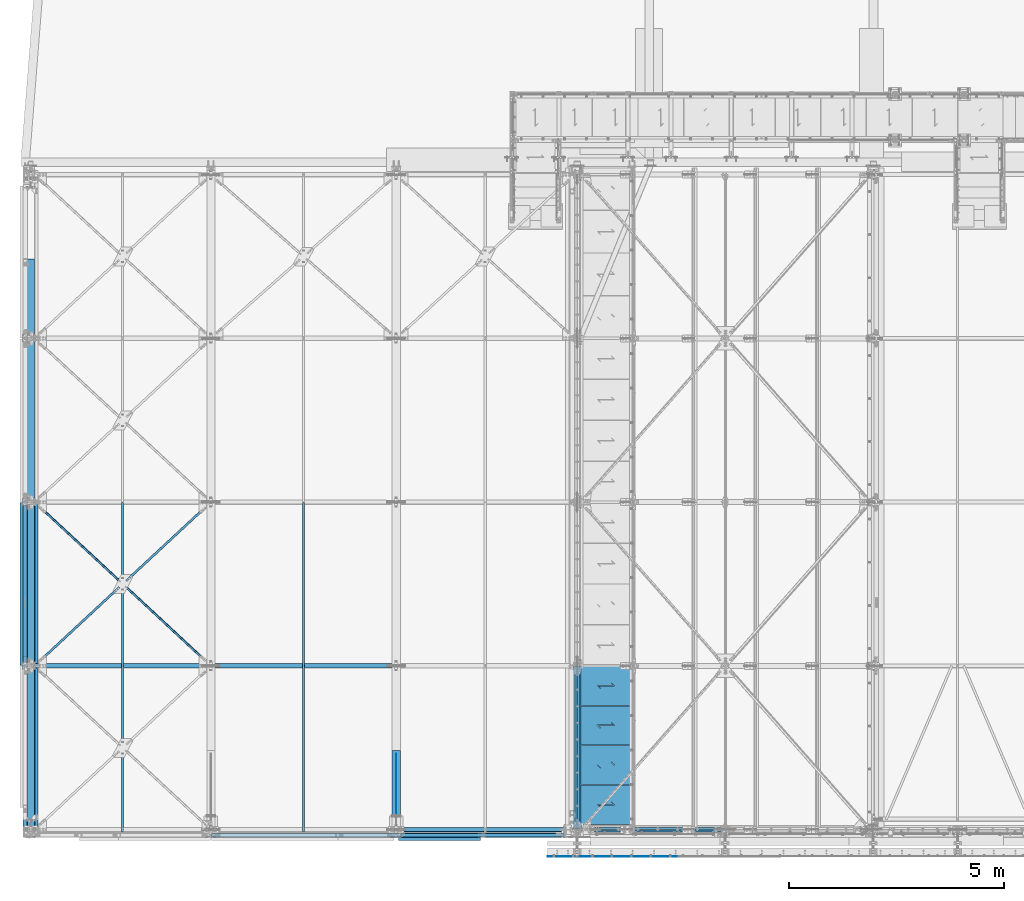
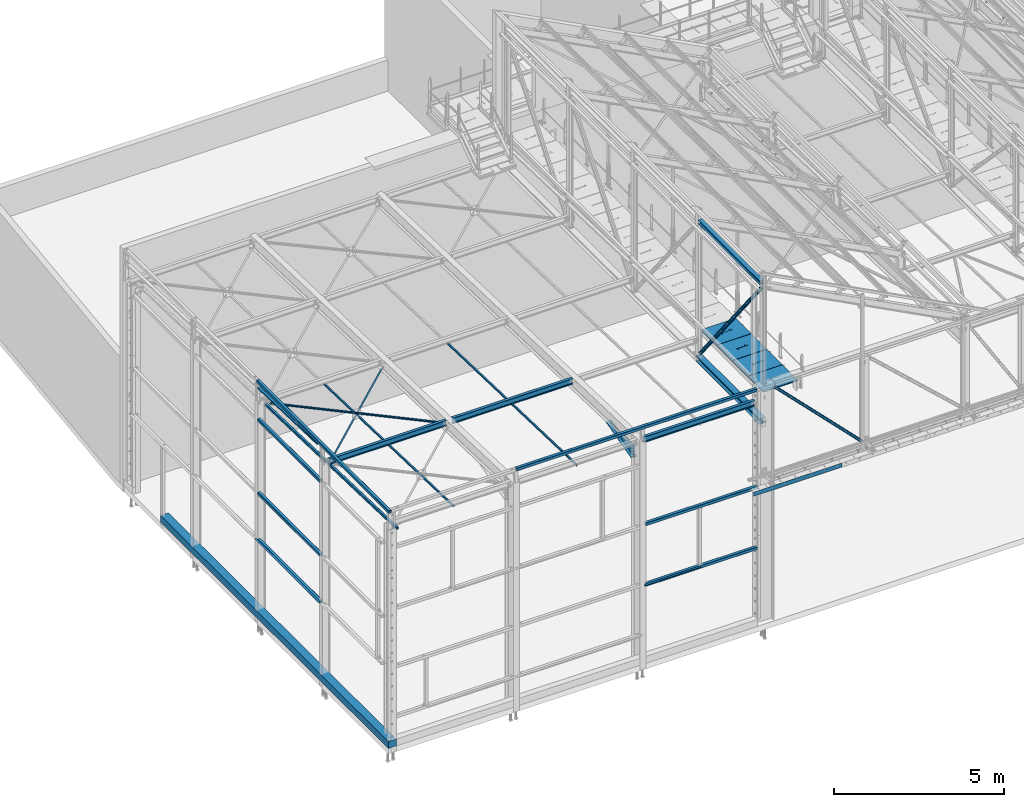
# One storey, part 42 of 362: 29 beams, 4 members, 30 elements without a shape of their own.
"""IFC2X3 building model written with IfcOpenShell, lengths in millimetres."""

from ifc_helpers import new_model, si_unit, frame, origin_with_axes, origin_2d_with_axis, place, context, subcontext, project, spatial, polyline, rectangle, hollow_rectangle, i_section, l_section, u_section, outline, extrude, boolean, clip, halfspace, material, type_object, element, aggregate, save


model = new_model("IFC2X3")

# Units and contexts
model_context = context("Model", 3, precision=1e-05, world=origin_with_axes())
body_context = subcontext(model_context, "Body", "Model", "MODEL_VIEW")
ifc_project = project(units=[si_unit("LENGTHUNIT", "METRE", prefix="MILLI"), si_unit("AREAUNIT", "SQUARE_METRE"), si_unit("VOLUMEUNIT", "CUBIC_METRE"), si_unit("MASSUNIT", "GRAM", prefix="KILO"), si_unit("TIMEUNIT", "SECOND"), si_unit("PLANEANGLEUNIT", "RADIAN"), si_unit("SOLIDANGLEUNIT", "STERADIAN"), si_unit("THERMODYNAMICTEMPERATUREUNIT", "DEGREE_CELSIUS"), si_unit("LUMINOUSINTENSITYUNIT", "LUMEN")], contexts=[model_context])

# Site, building, storey
site_placement = place(None, origin_with_axes())
site = spatial("IfcSite", under=ifc_project, at=site_placement, Name="Undefined", CompositionType="ELEMENT")
building_placement = place(site_placement, origin_with_axes())
building = spatial("IfcBuilding", under=site, at=building_placement, Name="Undefined", CompositionType="ELEMENT")
storey_placement = place(building_placement, origin_with_axes())
storey = spatial("IfcBuildingStorey", under=building, at=storey_placement, Name="Undefined", CompositionType="ELEMENT", Elevation=0.0)

# Assembly, beam
assembly_1_placement = place(storey_placement, origin_with_axes())
assembly_1 = element("IfcElementAssembly", 1, at=assembly_1_placement, inside=storey, AssemblyPlace="NOTDEFINED", PredefinedType="NOTDEFINED")
ifc_material_1 = material(Name="Undefined/S235-E24")
beam_type_1 = type_object("IfcBeamType", Name="L50*5", PredefinedType="NOTDEFINED")
beam_1_placement = place(assembly_1_placement, frame((6327.00001266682, -53.9015129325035, 7826.58977123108), z_axis=(1.0, 0.0, 0.0), x_axis=(3.14103090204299e-11, 0.999506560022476, -0.0314107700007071)))
beam_1 = element("IfcBeam", 2, at=beam_1_placement, type_object=beam_type_1, material=ifc_material_1, Name="LIERNE", ObjectType="L50*5", context=body_context, shape_type="SweptSolid", body=[
    extrude(l_section(Depth=50.0, Width=50.0, Thickness=5.0, FilletRadius=7.0, EdgeRadius=3.5, at=origin_2d_with_axis()), frame((7648.75199419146, 0.0, 0.0), z_axis=(-1.0, 0.0, 0.0), x_axis=(0.0, -1.0, 0.0)), (0.0, 0.0, 1.0), 7648.75),
])
aggregate(assembly_1, [beam_1])

assembly_2_placement = place(storey_placement, origin_with_axes())
assembly_2 = element("IfcElementAssembly", 3, at=assembly_2_placement, inside=storey, AssemblyPlace="NOTDEFINED", PredefinedType="NOTDEFINED")
beam_2_placement = place(assembly_2_placement, frame((2132.95531990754, 5698.0833135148, 7639.81379578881), z_axis=(0.68083649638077, -0.732074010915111, 0.0230066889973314), x_axis=(0.732435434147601, 0.680500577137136, -0.0213845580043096)))
beam_2 = element("IfcBeam", 4, at=beam_2_placement, type_object=beam_type_1, material=ifc_material_1, Name="STABILITE CVT", ObjectType="L50*5", context=body_context, shape_type="Clipping", body=[
    clip(clip(extrude(l_section(Depth=50.0, Width=50.0, Thickness=5.0, FilletRadius=7.0, EdgeRadius=3.5, at=origin_2d_with_axis()), frame((2792.05794235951, 1.81898940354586e-12, 3.02412813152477e-13), z_axis=(-1.0, 0.0, 0.0), x_axis=(0.0, -1.0, 0.0)), (0.0, 0.0, 1.0), 2736.72), halfspace(frame((2629.6011678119, 24.9927799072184, 24.996908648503), z_axis=(0.999999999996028, -1.34644375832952e-06, -2.47632953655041e-06), x_axis=(-2.47633029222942e-06, -5.61239297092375e-07, -0.999999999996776)), False)), halfspace(frame((106.894615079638, 31.0068168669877, 25.0000008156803), z_axis=(0.999999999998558, -1.69800000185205e-06, 0.0), x_axis=(1.69800000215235e-06, 0.999999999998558, 0.0)), True)),
])
aggregate(assembly_2, [beam_2])

assembly_3_placement = place(storey_placement, origin_with_axes())
assembly_3 = element("IfcElementAssembly", 5, at=assembly_3_placement, inside=storey, AssemblyPlace="NOTDEFINED", PredefinedType="NOTDEFINED")
beam_3_placement = place(assembly_3_placement, frame((2132.00001266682, -53.9015129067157, 7826.58977123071), z_axis=(1.0, 0.0, 0.0), x_axis=(3.14103090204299e-11, 0.999506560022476, -0.0314107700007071)))
beam_3 = element("IfcBeam", 6, at=beam_3_placement, type_object=beam_type_1, material=ifc_material_1, Name="LIERNE", ObjectType="L50*5", context=body_context, shape_type="SweptSolid", body=[
    extrude(l_section(Depth=50.0, Width=50.0, Thickness=5.0, FilletRadius=7.0, EdgeRadius=3.5, at=origin_2d_with_axis()), frame((7648.75199419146, 0.0, 0.0), z_axis=(-1.0, 0.0, 0.0), x_axis=(0.0, -1.0, 0.0)), (0.0, 0.0, 1.0), 7648.75),
])
aggregate(assembly_3, [beam_3])

assembly_4_placement = place(storey_placement, origin_with_axes())
assembly_4 = element("IfcElementAssembly", 7, at=assembly_4_placement, inside=storey, AssemblyPlace="NOTDEFINED", PredefinedType="NOTDEFINED")
beam_4_placement = place(assembly_4_placement, frame((4182.04253757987, 3799.8493937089, 7755.49482368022), z_axis=(-0.680836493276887, -0.73207405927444, 0.023005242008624), x_axis=(-0.732435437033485, 0.680500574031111, -0.0213845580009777)))
beam_4 = element("IfcBeam", 8, at=beam_4_placement, type_object=beam_type_1, material=ifc_material_1, Name="STABILITE CVT", ObjectType="L50*5", context=body_context, shape_type="Clipping", body=[
    clip(clip(extrude(l_section(Depth=50.0, Width=50.0, Thickness=5.0, FilletRadius=7.0, EdgeRadius=3.5, at=origin_2d_with_axis()), frame((5584.10997520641, -9.09494701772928e-13, 2.93028321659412e-13), z_axis=(-1.0, 0.0, 0.0), x_axis=(0.0, -1.0, 0.0)), (0.0, 0.0, 1.0), 5584.11), halfspace(frame((5421.64660010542, -25.0000571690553, -24.9999999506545), z_axis=(0.999999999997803, 2.09200000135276e-06, 1.31999999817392e-07), x_axis=(0.0, 0.0, 1.0)), False)), halfspace(frame((162.459932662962, 25.000057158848, -24.9999999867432), z_axis=(-0.999999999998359, -1.34631977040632e-06, 1.21235578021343e-06), x_axis=(1.21235578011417e-06, 7.45476427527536e-11, 0.999999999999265)), False)),
])
aggregate(assembly_4, [beam_4])

assembly_5_placement = place(storey_placement, origin_with_axes())
assembly_5 = element("IfcElementAssembly", 9, at=assembly_5_placement, inside=storey, AssemblyPlace="NOTDEFINED", PredefinedType="NOTDEFINED")
beam_5_placement = place(assembly_5_placement, frame((87.9574898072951, 3798.09030455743, 7699.52059346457), z_axis=(0.68083649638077, -0.732074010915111, 0.0230066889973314), x_axis=(0.732435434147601, 0.680500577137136, -0.0213845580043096)))
beam_5 = element("IfcBeam", 10, at=beam_5_placement, type_object=beam_type_1, material=ifc_material_1, Name="STABILITE CVT", ObjectType="L50*5", context=body_context, shape_type="Clipping", body=[
    clip(clip(extrude(l_section(Depth=50.0, Width=50.0, Thickness=5.0, FilletRadius=7.0, EdgeRadius=3.5, at=origin_2d_with_axis()), frame((2736.71023834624, 8.99999830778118e-13, 4.62758648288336e-13), z_axis=(-1.0, 0.0, 0.0), x_axis=(0.0, -1.0, 0.0)), (0.0, 0.0, 1.0), 2736.71), halfspace(frame((162.463400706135, -25.0000933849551, 24.9999638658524), z_axis=(-0.999999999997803, 2.09199999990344e-06, -1.31999999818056e-07), x_axis=(-6.7626569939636e-10, 1.60677807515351e-06, -0.999999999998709)), False)), halfspace(frame((2685.15740098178, 31.0071053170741, 25.0000000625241), z_axis=(0.999999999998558, -1.69800000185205e-06, 0.0), x_axis=(1.69800000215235e-06, 0.999999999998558, 0.0)), False)),
])
aggregate(assembly_5, [beam_5])

assembly_6_placement = place(storey_placement, origin_with_axes())
assembly_6 = element("IfcElementAssembly", 11, at=assembly_6_placement, inside=storey, Name="SUPPORT", AssemblyPlace="NOTDEFINED", PredefinedType="NOTDEFINED")
beam_type_2 = type_object("IfcBeamType", Name="PL150*4", PredefinedType="NOTDEFINED")
beam_6_placement = place(assembly_6_placement, frame((11990.0, -622.0, 5154.99824538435), z_axis=(0.0, 0.0, 1.0), x_axis=(1.0, 0.0, 0.0)))
beam_6 = element("IfcBeam", 12, at=beam_6_placement, type_object=beam_type_2, material=ifc_material_1, Name="SUPPORT", ObjectType="PL150*4", context=body_context, shape_type="SweptSolid", body=[
    extrude(rectangle(XDim=4.0, YDim=150.0, at=origin_2d_with_axis()), frame((2999.99999402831, 0.0, 0.0), z_axis=(-1.0, 0.0, 0.0), x_axis=(0.0, -1.0, 0.0)), (0.0, 0.0, 1.0), 3000.0),
])
aggregate(assembly_6, [beam_6])

assembly_7_placement = place(storey_placement, origin_with_axes())
assembly_7 = element("IfcElementAssembly", 13, at=assembly_7_placement, inside=storey, Name="LISSE", AssemblyPlace="NOTDEFINED", PredefinedType="NOTDEFINED")
beam_type_3 = type_object("IfcBeamType", Name="UPF-100*50*4", PredefinedType="NOTDEFINED")
beam_7_placement = place(assembly_7_placement, frame((-129.999999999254, 3799.99999997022, 8410.85601504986), z_axis=(1.0, 0.0, 0.0), x_axis=(0.0, 0.99950644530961, -0.0314144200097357)))
beam_7 = element("IfcBeam", 14, at=beam_7_placement, type_object=beam_type_3, material=ifc_material_1, Name="LISSE CONTREBARDAGE", ObjectType="UPF-100*50*4", context=body_context, shape_type="Clipping", body=[
    clip(clip(extrude(u_section(Depth=100.0, FlangeWidth=50.0, WebThickness=4.0, FlangeThickness=4.0, at=origin_2d_with_axis()), frame((3738.43154409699, 2.59405798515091e-14, 0.0), z_axis=(-1.0, 0.0, 0.0), x_axis=(0.0, -1.0, 0.0)), (0.0, 0.0, 1.0), 3536.42), halfspace(frame((3735.73414698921, 35.3226290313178, 49.9999999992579), z_axis=(-0.999506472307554, -0.0314135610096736, 0.0), x_axis=(0.0, 0.0, 1.0)), True)), halfspace(frame((202.484021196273, 35.5224298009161, 49.9999999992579), z_axis=(0.999506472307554, 0.0314135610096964, 0.0), x_axis=(0.0, 0.0, 1.0)), True)),
])
aggregate(assembly_7, [beam_7])

assembly_8_placement = place(storey_placement, origin_with_axes())
assembly_8 = element("IfcElementAssembly", 15, at=assembly_8_placement, inside=storey, Name="LISSE", AssemblyPlace="NOTDEFINED", PredefinedType="NOTDEFINED")
beam_type_4 = type_object("IfcBeamType", Name="TUBE-C-100*100*4", PredefinedType="NOTDEFINED")
beam_8_placement = place(assembly_8_placement, frame((4185.0, -130.0, 8500.0), z_axis=(0.0, 0.0, 1.0), x_axis=(1.0, 0.0, 0.0)))
beam_8 = element("IfcBeam", 16, at=beam_8_placement, type_object=beam_type_4, material=ifc_material_1, Name="LISSE ACROTERE", ObjectType="TUBE-C-100*100*4", context=body_context, shape_type="SweptSolid", body=[
    extrude(hollow_rectangle(XDim=100.0, YDim=100.0, WallThickness=4.0, InnerFilletRadius=4.0, OuterFilletRadius=8.0, at=origin_2d_with_axis()), frame((8185.0, 0.0, 0.0), z_axis=(-1.0, 0.0, 0.0), x_axis=(0.0, -1.0, 0.0)), (0.0, 0.0, 1.0), 8185.0),
])
aggregate(assembly_8, [beam_8])

assembly_9_placement = place(storey_placement, origin_with_axes())
assembly_9 = element("IfcElementAssembly", 17, at=assembly_9_placement, inside=storey, Name="LISSE", AssemblyPlace="NOTDEFINED", PredefinedType="NOTDEFINED")
beam_9_placement = place(assembly_9_placement, frame((-129.999999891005, 7595.00000002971, 8500.00000001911), z_axis=(0.0, 0.0, 1.0), x_axis=(0.0, -1.0, 0.0)))
beam_9 = element("IfcBeam", 18, at=beam_9_placement, type_object=beam_type_4, material=ifc_material_1, Name="LISSE ACROTERE", ObjectType="TUBE-C-100*100*4", context=body_context, shape_type="SweptSolid", body=[
    extrude(hollow_rectangle(XDim=100.0, YDim=100.0, WallThickness=4.0, InnerFilletRadius=4.0, OuterFilletRadius=8.0, at=origin_2d_with_axis()), frame((7775.00000003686, 0.0, 0.0), z_axis=(-1.0, 0.0, 0.0), x_axis=(0.0, -1.0, 0.0)), (0.0, 0.0, 1.0), 7775.0),
])
aggregate(assembly_9, [beam_9])

assembly_10_placement = place(storey_placement, origin_with_axes())
assembly_10 = element("IfcElementAssembly", 19, at=assembly_10_placement, inside=storey, Name="LISSE", AssemblyPlace="NOTDEFINED", PredefinedType="NOTDEFINED")
beam_10_placement = place(assembly_10_placement, frame((-129.999999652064, 7524.99999131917, 4500.00000022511), z_axis=(0.0, 0.0, 1.0), x_axis=(0.0, -1.0, 0.0)))
beam_10 = element("IfcBeam", 20, at=beam_10_placement, type_object=beam_type_4, material=ifc_material_1, Name="LISSE CHASSIS", ObjectType="TUBE-C-100*100*4", context=body_context, shape_type="SweptSolid", body=[
    extrude(hollow_rectangle(XDim=100.0, YDim=100.0, WallThickness=4.0, InnerFilletRadius=4.0, OuterFilletRadius=8.0, at=origin_2d_with_axis()), frame((3650.0, 0.0, 0.0), z_axis=(-1.0, 0.0, 0.0), x_axis=(0.0, -1.0, 0.0)), (0.0, 0.0, 1.0), 3650.0),
])
aggregate(assembly_10, [beam_10])

assembly_11_placement = place(storey_placement, origin_with_axes())
assembly_11 = element("IfcElementAssembly", 21, at=assembly_11_placement, inside=storey, Name="LISSE", AssemblyPlace="NOTDEFINED", PredefinedType="NOTDEFINED")
beam_11_placement = place(assembly_11_placement, frame((8585.00000000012, -130.000008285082, 4989.99999999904), z_axis=(0.0, 0.0, 1.0), x_axis=(1.0, 0.0, 0.0)))
beam_11 = element("IfcBeam", 22, at=beam_11_placement, type_object=beam_type_4, material=ifc_material_1, Name="LISSE CHASSIS", ObjectType="TUBE-C-100*100*4", context=body_context, shape_type="SweptSolid", body=[
    extrude(hollow_rectangle(XDim=100.0, YDim=100.0, WallThickness=4.0, InnerFilletRadius=4.0, OuterFilletRadius=8.0, at=origin_2d_with_axis()), frame((3790.00000005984, 0.0, 0.0), z_axis=(-1.0, 0.0, 0.0), x_axis=(0.0, -1.0, 0.0)), (0.0, 0.0, 1.0), 3790.0),
])
aggregate(assembly_11, [beam_11])

assembly_12_placement = place(storey_placement, origin_with_axes())
assembly_12 = element("IfcElementAssembly", 23, at=assembly_12_placement, inside=storey, Name="LISSE", AssemblyPlace="NOTDEFINED", PredefinedType="NOTDEFINED")
beam_12_placement = place(assembly_12_placement, frame((8585.00000011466, -129.999999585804, 2810.0), z_axis=(0.0, 0.0, -1.0), x_axis=(1.0, 0.0, 0.0)))
beam_12 = element("IfcBeam", 24, at=beam_12_placement, type_object=beam_type_4, material=ifc_material_1, Name="LISSE CHASSIS", ObjectType="TUBE-C-100*100*4", context=body_context, shape_type="SweptSolid", body=[
    extrude(hollow_rectangle(XDim=100.0, YDim=100.0, WallThickness=4.0, InnerFilletRadius=4.0, OuterFilletRadius=8.0, at=origin_2d_with_axis()), frame((3790.00000005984, 0.0, 0.0), z_axis=(-1.0, 0.0, 0.0), x_axis=(0.0, -1.0, 0.0)), (0.0, 0.0, 1.0), 3790.0),
])

assembly_13_placement = place(storey_placement, origin_with_axes())
assembly_13 = element("IfcElementAssembly", 25, at=assembly_13_placement, inside=storey, Name="LISSE", AssemblyPlace="NOTDEFINED", PredefinedType="NOTDEFINED")
beam_13_placement = place(assembly_13_placement, frame((-129.999999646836, 7524.9999991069, 7150.00000925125), z_axis=(0.0, 0.0, -1.0), x_axis=(0.0, -1.0, 0.0)))
beam_13 = element("IfcBeam", 26, at=beam_13_placement, type_object=beam_type_4, material=ifc_material_1, Name="LISSE CHASSIS", ObjectType="TUBE-C-100*100*4", context=body_context, shape_type="SweptSolid", body=[
    extrude(hollow_rectangle(XDim=100.0, YDim=100.0, WallThickness=4.0, InnerFilletRadius=4.0, OuterFilletRadius=8.0, at=origin_2d_with_axis()), frame((3650.0, 0.0, 0.0), z_axis=(-1.0, 0.0, 0.0), x_axis=(0.0, -1.0, 0.0)), (0.0, 0.0, 1.0), 3650.0),
])
aggregate(assembly_13, [beam_13])

assembly_14_placement = place(storey_placement, origin_with_axes())
assembly_14 = element("IfcElementAssembly", 27, at=assembly_14_placement, inside=storey, Name="LISSE", AssemblyPlace="NOTDEFINED", PredefinedType="NOTDEFINED")
beam_14_placement = place(assembly_14_placement, frame((-129.999999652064, 7524.99999900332, 2810.00000011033), z_axis=(0.0, 0.0, 1.0), x_axis=(0.0, -1.0, 0.0)))
beam_14 = element("IfcBeam", 28, at=beam_14_placement, type_object=beam_type_4, material=ifc_material_1, Name="LISSE CHASSIS", ObjectType="TUBE-C-100*100*4", context=body_context, shape_type="SweptSolid", body=[
    extrude(hollow_rectangle(XDim=100.0, YDim=100.0, WallThickness=4.0, InnerFilletRadius=4.0, OuterFilletRadius=8.0, at=origin_2d_with_axis()), frame((3650.0, 0.0, 0.0), z_axis=(-1.0, 0.0, 0.0), x_axis=(0.0, -1.0, 0.0)), (0.0, 0.0, 1.0), 3650.0),
])

assembly_15_placement = place(storey_placement, origin_with_axes())
assembly_15 = element("IfcElementAssembly", 29, at=assembly_15_placement, inside=storey, AssemblyPlace="NOTDEFINED", PredefinedType="NOTDEFINED")
beam_type_5 = type_object("IfcBeamType", Name="TOLE30*910", PredefinedType="NOTDEFINED")
beam_15_placement = place(assembly_15_placement, frame((13936.4998935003, 1035.00001430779, 8115.0), z_axis=(0.0, 0.0, 1.0), x_axis=(-1.0, 0.0, 0.0)))
beam_15 = element("IfcBeam", 30, at=beam_15_placement, type_object=beam_type_5, material=ifc_material_1, Name="CAILLEBOTIS", ObjectType="TOLE30*910", context=body_context, shape_type="CSG", body=[
    boolean("DIFFERENCE", extrude(outline(polyline([(0.0, 0.0), (1179.99169921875, 0.0), (1179.99169921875, 910.0), (-9.39995516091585e-07, 910.0), (0.0, 0.0)])), frame((0.0, 0.0, -15.0), z_axis=(0.0, 0.0, 1.0), x_axis=(1.0, 0.0, 0.0)), (0.0, 0.0, 1.0), 30.0), extrude(outline(polyline([(0.0, 0.0), (9.99999999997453, 6.91215973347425e-11), (10.0000000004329, 75.8578643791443), (282.842712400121, -196.984848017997), (282.842712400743, -96.9848480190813), (272.842712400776, -96.9848480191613), (272.842712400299, -172.842712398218), (0.0, 100.0), (0.0, 0.0)])), frame((724.285170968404, 520.710678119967, -17.5), z_axis=(0.0, 0.0, 1.0), x_axis=(-0.707106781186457, -0.707106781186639, 0.0)), (0.0, 0.0, 1.0), 35.0)),
])
aggregate(assembly_15, [beam_15])

assembly_16_placement = place(storey_placement, origin_with_axes())
assembly_16 = element("IfcElementAssembly", 31, at=assembly_16_placement, inside=storey, AssemblyPlace="NOTDEFINED", PredefinedType="NOTDEFINED")
beam_16_placement = place(assembly_16_placement, frame((13936.4998935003, 1955.00000953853, 8115.0), z_axis=(0.0, 0.0, 1.0), x_axis=(-1.0, 0.0, 0.0)))
beam_16 = element("IfcBeam", 32, at=beam_16_placement, type_object=beam_type_5, material=ifc_material_1, Name="CAILLEBOTIS", ObjectType="TOLE30*910", context=body_context, shape_type="CSG", body=[
    boolean("DIFFERENCE", extrude(outline(polyline([(0.0, 0.0), (1179.99169921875, 0.0), (1179.99169921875, 910.0), (-9.39995516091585e-07, 910.0), (0.0, 0.0)])), frame((0.0, 0.0, -15.0), z_axis=(0.0, 0.0, 1.0), x_axis=(1.0, 0.0, 0.0)), (0.0, 0.0, 1.0), 30.0), extrude(outline(polyline([(0.0, 0.0), (9.99999999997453, 6.91215973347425e-11), (10.0000000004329, 75.8578643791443), (282.842712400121, -196.984848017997), (282.842712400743, -96.9848480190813), (272.842712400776, -96.9848480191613), (272.842712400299, -172.842712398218), (0.0, 100.0), (0.0, 0.0)])), frame((724.285170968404, 520.710678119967, -17.5), z_axis=(0.0, 0.0, 1.0), x_axis=(-0.707106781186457, -0.707106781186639, 0.0)), (0.0, 0.0, 1.0), 35.0)),
])
aggregate(assembly_16, [beam_16])

assembly_17_placement = place(storey_placement, origin_with_axes())
assembly_17 = element("IfcElementAssembly", 33, at=assembly_17_placement, inside=storey, AssemblyPlace="NOTDEFINED", PredefinedType="NOTDEFINED")
beam_17_placement = place(assembly_17_placement, frame((13936.4998935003, 2875.00000476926, 8115.0), z_axis=(0.0, 0.0, 1.0), x_axis=(-1.0, 0.0, 0.0)))
beam_17 = element("IfcBeam", 34, at=beam_17_placement, type_object=beam_type_5, material=ifc_material_1, Name="CAILLEBOTIS", ObjectType="TOLE30*910", context=body_context, shape_type="CSG", body=[
    boolean("DIFFERENCE", extrude(outline(polyline([(0.0, 0.0), (1179.99169921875, 0.0), (1179.99169921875, 910.0), (-9.39995516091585e-07, 910.0), (0.0, 0.0)])), frame((0.0, 0.0, -15.0), z_axis=(0.0, 0.0, 1.0), x_axis=(1.0, 0.0, 0.0)), (0.0, 0.0, 1.0), 30.0), extrude(outline(polyline([(0.0, 0.0), (9.99999999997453, 6.91215973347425e-11), (10.0000000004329, 75.8578643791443), (282.842712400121, -196.984848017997), (282.842712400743, -96.9848480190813), (272.842712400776, -96.9848480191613), (272.842712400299, -172.842712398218), (0.0, 100.0), (0.0, 0.0)])), frame((724.285170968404, 520.710678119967, -17.5), z_axis=(0.0, 0.0, 1.0), x_axis=(-0.707106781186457, -0.707106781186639, 0.0)), (0.0, 0.0, 1.0), 35.0)),
])
aggregate(assembly_17, [beam_17])

assembly_18_placement = place(storey_placement, origin_with_axes())
assembly_18 = element("IfcElementAssembly", 35, at=assembly_18_placement, inside=storey, AssemblyPlace="NOTDEFINED", PredefinedType="NOTDEFINED")
beam_18_placement = place(assembly_18_placement, frame((13936.4998935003, 3795.0, 8115.0), z_axis=(0.0, 0.0, 1.0), x_axis=(-1.0, 0.0, 0.0)))
beam_18 = element("IfcBeam", 36, at=beam_18_placement, type_object=beam_type_5, material=ifc_material_1, Name="CAILLEBOTIS", ObjectType="TOLE30*910", context=body_context, shape_type="CSG", body=[
    boolean("DIFFERENCE", extrude(outline(polyline([(0.0, 0.0), (1179.99169921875, 0.0), (1179.99169921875, 910.0), (-9.39995516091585e-07, 910.0), (0.0, 0.0)])), frame((0.0, 0.0, -15.0), z_axis=(0.0, 0.0, 1.0), x_axis=(1.0, 0.0, 0.0)), (0.0, 0.0, 1.0), 30.0), extrude(outline(polyline([(0.0, 0.0), (9.99999999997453, 6.91215973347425e-11), (10.0000000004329, 75.8578643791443), (282.842712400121, -196.984848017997), (282.842712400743, -96.9848480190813), (272.842712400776, -96.9848480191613), (272.842712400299, -172.842712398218), (0.0, 100.0), (0.0, 0.0)])), frame((724.285170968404, 520.710678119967, -17.5), z_axis=(0.0, 0.0, 1.0), x_axis=(-0.707106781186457, -0.707106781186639, 0.0)), (0.0, 0.0, 1.0), 35.0)),
])
aggregate(assembly_18, [beam_18])

# Beam
beam_type_6 = type_object("IfcBeamType", Name="L70*7", PredefinedType="NOTDEFINED")
beam_19_placement = place(assembly_12_placement, frame((8529.99999996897, -215.000007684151, 2825.0), z_axis=(0.0, -1.0, 0.0), x_axis=(1.0, 0.0, 0.0)))
beam_19 = element("IfcBeam", 37, at=beam_19_placement, type_object=beam_type_6, material=ifc_material_1, Name="SUPPORT", ObjectType="L70*7", context=body_context, shape_type="SweptSolid", body=[
    extrude(l_section(Depth=70.0, Width=70.0, Thickness=7.0, FilletRadius=9.0, EdgeRadius=4.5, at=origin_2d_with_axis()), frame((1899.99781571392, 0.0, 0.0), z_axis=(-1.0, 0.0, 0.0), x_axis=(0.0, -1.0, 0.0)), (0.0, 0.0, 1.0), 1900.0),
])

aggregate(assembly_12, [beam_19, beam_12])

beam_20_placement = place(assembly_14_placement, frame((-215.000001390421, 7589.99999792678, 2824.99999059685), z_axis=(-1.0, 0.0, 0.0), x_axis=(0.0, -1.0, 0.0)))
beam_20 = element("IfcBeam", 38, at=beam_20_placement, type_object=beam_type_6, material=ifc_material_1, Name="LISSE CHASSIS", ObjectType="L70*7", context=body_context, shape_type="SweptSolid", body=[
    extrude(l_section(Depth=70.0, Width=70.0, Thickness=7.0, FilletRadius=9.0, EdgeRadius=4.5, at=origin_2d_with_axis()), frame((3779.99999902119, 1.5633713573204e-21, 0.0), z_axis=(-1.0, 0.0, 0.0), x_axis=(0.0, -1.0, 0.0)), (0.0, 0.0, 1.0), 3780.0),
])

aggregate(assembly_14, [beam_20, beam_14])

# Assembly, beam
assembly_19_placement = place(storey_placement, origin_with_axes())
assembly_19 = element("IfcElementAssembly", 39, at=assembly_19_placement, inside=storey, Name="TRAVERSE", AssemblyPlace="NOTDEFINED", PredefinedType="NOTDEFINED")
beam_type_7 = type_object("IfcBeamType", Name="PL15*190", PredefinedType="NOTDEFINED")
beam_21_placement = place(assembly_19_placement, frame((8480.0, 1836.15791643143, 7534.87805845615), z_axis=(1.0, 0.0, 0.0), x_axis=(0.0, -0.967446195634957, -0.253076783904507)))
beam_21 = element("IfcBeam", 40, at=beam_21_placement, type_object=beam_type_7, material=ifc_material_1, Name="JARRET", ObjectType="PL15*190", context=body_context, shape_type="SweptSolid", body=[
    extrude(rectangle(XDim=15.0, YDim=190.0, at=origin_2d_with_axis()), frame((1549.7087562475, 0.0, 0.0), z_axis=(-1.0, 0.0, 0.0), x_axis=(0.0, -1.0, 0.0)), (0.0, 0.0, 1.0), 1549.71),
])

assembly_20_placement = place(storey_placement, origin_with_axes())
assembly_20 = element("IfcElementAssembly", 41, at=assembly_20_placement, inside=storey, AssemblyPlace="NOTDEFINED", PredefinedType="NOTDEFINED")
ifc_material_2 = material(Name="Undefined/S275-E28")
beam_type_8 = type_object("IfcBeamType", Name="HEA140", PredefinedType="NOTDEFINED")
beam_22_placement = place(assembly_20_placement, frame((12683.5, 3725.0, 12103.5), z_axis=(0.0, 0.0, 1.0), x_axis=(0.0, -1.0, 0.0)))
beam_22 = element("IfcBeam", 42, at=beam_22_placement, type_object=beam_type_8, material=ifc_material_2, Name="LONGERON", ObjectType="HEA140", context=body_context, shape_type="SweptSolid", body=[
    extrude(i_section(OverallWidth=140.0, OverallDepth=133.0, WebThickness=5.5, FlangeThickness=8.5, FilletRadius=12.0, at=origin_2d_with_axis()), frame((3650.0, 0.0, 0.0), z_axis=(-1.0, 0.0, 0.0), x_axis=(0.0, -1.0, 0.0)), (0.0, 0.0, 1.0), 3650.0),
])
aggregate(assembly_20, [beam_22])

assembly_21_placement = place(storey_placement, origin_with_axes())
assembly_21 = element("IfcElementAssembly", 43, at=assembly_21_placement, inside=storey, AssemblyPlace="NOTDEFINED", PredefinedType="NOTDEFINED")
beam_type_9 = type_object("IfcBeamType", Name="HEA200", PredefinedType="NOTDEFINED")
beam_23_placement = place(assembly_21_placement, frame((12679.9999999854, 3795.00000162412, 7154.99993592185), z_axis=(0.0, 0.0, 1.0), x_axis=(0.0, -1.0, 0.0)))
beam_23 = element("IfcBeam", 44, at=beam_23_placement, type_object=beam_type_9, material=ifc_material_2, Name="LONGERON", ObjectType="HEA200", context=body_context, shape_type="SweptSolid", body=[
    extrude(i_section(OverallWidth=200.0, OverallDepth=190.0, WebThickness=6.5, FlangeThickness=10.0, FilletRadius=18.0, at=origin_2d_with_axis()), frame((3765.00000093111, 0.0, 0.0), z_axis=(-1.0, 0.0, 0.0), x_axis=(0.0, -1.0, 0.0)), (0.0, 0.0, 1.0), 3765.0),
])
aggregate(assembly_21, [beam_23])

assembly_22_placement = place(storey_placement, origin_with_axes())
assembly_22 = element("IfcElementAssembly", 45, at=assembly_22_placement, inside=storey, Name="POUTRE", AssemblyPlace="NOTDEFINED", PredefinedType="REINFORCEMENT_UNIT")
ifc_material_3 = material(Name="CONCRETE/C25/30")
beam_type_10 = type_object("IfcBeamType", Name="250*270", PredefinedType="NOTDEFINED")
beam_24_placement = place(assembly_22_placement, frame((-44.9999991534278, 13245.0066102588, 125.000000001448), z_axis=(0.0, 0.0, 1.0), x_axis=(0.0, -1.0, 0.0)))
beam_24 = element("IfcBeam", 46, at=beam_24_placement, type_object=beam_type_10, material=ifc_material_3, Name="POUTRE", ObjectType="250*270", context=body_context, shape_type="SweptSolid", body=[
    extrude(rectangle(XDim=270.0, YDim=250.0, at=origin_2d_with_axis()), frame((13425.0065914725, 0.0, 0.0), z_axis=(-1.0, 0.0, 0.0), x_axis=(0.0, -1.0, 0.0)), (0.0, 0.0, 1.0), 13425.01),
])
aggregate(assembly_22, [beam_24])

# Assembly, member
assembly_23_placement = place(storey_placement, origin_with_axes())
assembly_23 = element("IfcElementAssembly", 47, at=assembly_23_placement, inside=storey, AssemblyPlace="NOTDEFINED", PredefinedType="NOTDEFINED")
member_type = type_object("IfcMemberType", Name="UPN80", PredefinedType="NOTDEFINED")
member_1_placement = place(assembly_23_placement, frame((12707.5000000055, 3799.99999999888, 7250.0), z_axis=(0.0, -0.78322611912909, -0.621736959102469), x_axis=(0.0, -0.621736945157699, 0.783226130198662)))
member_1 = element("IfcMember", 48, at=member_1_placement, type_object=member_type, material=ifc_material_2, Name="DIAGONALE", ObjectType="UPN80", context=body_context, shape_type="Clipping", body=[
    clip(clip(extrude(u_section(Depth=80.0, FlangeWidth=45.0, WebThickness=6.0, FlangeThickness=8.0, FilletRadius=8.0, EdgeRadius=4.0, FlangeSlope=0.0798299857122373, at=origin_2d_with_axis()), frame((6070.59328113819, 0.0, -6.73971243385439e-13), z_axis=(-1.0, 0.0, 0.0), x_axis=(0.0, -1.0, 0.0)), (0.0, 0.0, 1.0), 6029.29), halfspace(frame((5991.90044344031, 27.5000000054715, -39.9999959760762), z_axis=(-1.0, 0.0, 0.0), x_axis=(0.0, 1.0, 0.0)), True)), halfspace(frame((119.999999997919, 27.49999999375, -39.9999989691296), z_axis=(-1.0, 0.0, 0.0), x_axis=(0.0, 1.0, 0.0)), False)),
])
aggregate(assembly_23, [member_1])

assembly_24_placement = place(storey_placement, origin_with_axes())
assembly_24 = element("IfcElementAssembly", 49, at=assembly_24_placement, inside=storey, AssemblyPlace="NOTDEFINED", PredefinedType="NOTDEFINED")
member_2_placement = place(assembly_24_placement, frame((12652.4999999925, 0.00552230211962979, 12037.0), z_axis=(0.0, -0.78322611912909, -0.621736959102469), x_axis=(0.0, 0.621736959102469, -0.78322611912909)))
member_2 = element("IfcMember", 50, at=member_2_placement, type_object=member_type, material=ifc_material_2, Name="DIAGONALE", ObjectType="UPN80", context=body_context, shape_type="Clipping", body=[
    clip(clip(extrude(u_section(Depth=80.0, FlangeWidth=45.0, WebThickness=6.0, FlangeThickness=8.0, FilletRadius=8.0, EdgeRadius=4.0, FlangeSlope=0.0798299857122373, at=origin_2d_with_axis()), frame((6070.59328113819, 0.0, -6.73971243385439e-13), z_axis=(-1.0, 0.0, 0.0), x_axis=(0.0, -1.0, 0.0)), (0.0, 0.0, 1.0), 6029.29), halfspace(frame((5991.90044344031, 27.5000000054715, -39.9999959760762), z_axis=(1.0, 0.0, 0.0), x_axis=(0.0, -1.0, 0.0)), False)), halfspace(frame((119.999999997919, 27.49999999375, -39.9999989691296), z_axis=(1.0, 0.0, 0.0), x_axis=(0.0, -1.0, 0.0)), True)),
])
aggregate(assembly_24, [member_2])

assembly_25_placement = place(storey_placement, origin_with_axes())
assembly_25 = element("IfcElementAssembly", 51, at=assembly_25_placement, inside=storey, AssemblyPlace="NOTDEFINED", PredefinedType="NOTDEFINED")
member_3_placement = place(assembly_25_placement, frame((12979.9982004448, 27.4999999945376, 8359.99916816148), z_axis=(-0.711050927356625, 0.0, -0.703140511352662), x_axis=(0.703140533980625, 0.0, -0.711050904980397)))
member_3 = element("IfcMember", 52, at=member_3_placement, type_object=member_type, material=ifc_material_2, Name="DIAGONALE", ObjectType="UPN80", context=body_context, shape_type="Clipping", body=[
    clip(clip(extrude(u_section(Depth=80.0, FlangeWidth=45.0, WebThickness=6.0, FlangeThickness=8.0, FilletRadius=8.0, EdgeRadius=4.0, FlangeSlope=0.0798299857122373, at=origin_2d_with_axis()), frame((4418.98270887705, 3.5527136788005e-15, 0.0), z_axis=(-1.0, 0.0, 0.0), x_axis=(0.0, -1.0, 0.0)), (0.0, 0.0, 1.0), 4379.78), halfspace(frame((4338.18776487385, 27.4999999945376, 39.9999994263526), z_axis=(1.0, 0.0, 0.0), x_axis=(0.0, 1.0, 0.0)), False)), halfspace(frame((119.999999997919, 27.49999999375, -39.9999989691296), z_axis=(-1.0, 0.0, 0.0), x_axis=(0.0, 1.0, 0.0)), False)),
])
aggregate(assembly_25, [member_3])

assembly_26_placement = place(storey_placement, origin_with_axes())
assembly_26 = element("IfcElementAssembly", 53, at=assembly_26_placement, inside=storey, AssemblyPlace="NOTDEFINED", PredefinedType="NOTDEFINED")
member_4_placement = place(assembly_26_placement, frame((16114.7306905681, -27.5000000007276, 5190.00068831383), z_axis=(-0.711050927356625, 0.0, -0.703140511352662), x_axis=(-0.703140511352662, 0.0, 0.711050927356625)))
member_4 = element("IfcMember", 54, at=member_4_placement, type_object=member_type, material=ifc_material_2, Name="DIAGONALE", ObjectType="UPN80", context=body_context, shape_type="Clipping", body=[
    clip(clip(extrude(u_section(Depth=80.0, FlangeWidth=45.0, WebThickness=6.0, FlangeThickness=8.0, FilletRadius=8.0, EdgeRadius=4.0, FlangeSlope=0.0798299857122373, at=origin_2d_with_axis()), frame((4418.98270887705, 3.5527136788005e-15, 0.0), z_axis=(-1.0, 0.0, 0.0), x_axis=(0.0, -1.0, 0.0)), (0.0, 0.0, 1.0), 4379.78), halfspace(frame((4338.18776489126, 27.5000000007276, -39.9999999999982), z_axis=(1.0, 0.0, 0.0), x_axis=(0.0, -1.0, 0.0)), False)), halfspace(frame((119.999999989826, 27.5000000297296, 39.9999985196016), z_axis=(-1.0, 0.0, 0.0), x_axis=(0.0, -1.0, 0.0)), False)),
])
aggregate(assembly_26, [member_4])

# Beam
beam_type_11 = type_object("IfcBeamType", Name="TOLE10*417", PredefinedType="NOTDEFINED")
beam_25_placement = place(assembly_19_placement, frame((8480.0, 335.0, 7589.25004344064), z_axis=(-1.0, 0.0, 0.0), x_axis=(3.14103090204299e-11, 0.999506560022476, -0.0314107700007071)))
beam_25 = element("IfcBeam", 55, at=beam_25_placement, type_object=beam_type_11, material=ifc_material_1, Name="JARRET", ObjectType="TOLE10*417", context=body_context, shape_type="SweptSolid", body=[
    extrude(outline(polyline([(0.942322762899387, 29.9851968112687), (30.0, 0.0), (1419.99999999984, -1.22432538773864e-09), (1423.27844149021, 22.6672111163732), (42.569691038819, 430.594491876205), (12.856783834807, 409.109499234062), (0.942322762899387, 29.9851968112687)])), frame((0.0, 0.0, -5.0), z_axis=(0.0, 0.0, 1.0), x_axis=(1.0, 0.0, 0.0)), (0.0, 0.0, 1.0), 10.0),
])

aggregate(assembly_19, [beam_25, beam_21])

# Assembly, beam
assembly_27_placement = place(storey_placement, origin_with_axes())
assembly_27 = element("IfcElementAssembly", 56, at=assembly_27_placement, inside=storey, AssemblyPlace="NOTDEFINED", PredefinedType="NOTDEFINED")
beam_type_12 = type_object("IfcBeamType", Name="TUBE-C-80*80*4", PredefinedType="NOTDEFINED")
beam_26_placement = place(assembly_27_placement, frame((130.000000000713, -181.256430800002, 7815.57773073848), z_axis=(-1.05403257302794e-09, -0.0314112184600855, -0.999506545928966), x_axis=(3.14103090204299e-11, 0.999506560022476, -0.0314107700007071)))
beam_26 = element("IfcBeam", 57, at=beam_26_placement, type_object=beam_type_12, material=ifc_material_1, Name="RAMASSE PANNE", ObjectType="TUBE-C-80*80*4", context=body_context, shape_type="Clipping", body=[
    clip(clip(extrude(hollow_rectangle(XDim=80.0, YDim=80.0, WallThickness=4.0, InnerFilletRadius=4.0, OuterFilletRadius=8.0, at=origin_2d_with_axis()), frame((7782.63468409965, 0.0, 5.4002876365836e-14), z_axis=(-1.0, 0.0, 0.0), x_axis=(0.0, -1.0, 0.0)), (0.0, 0.0, 1.0), 7783.92), halfspace(frame((7781.5132409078, -130.000000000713, 45.1151114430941), z_axis=(-0.999506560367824, 0.0, 0.0314107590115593), x_axis=(0.0, -1.0, 0.0)), True)), halfspace(frame((-1.42554167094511, -130.000000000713, -85.3614556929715), z_axis=(0.999506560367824, 0.0, -0.0314107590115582), x_axis=(0.0, -1.0, 0.0)), True)),
])
aggregate(assembly_27, [beam_26])

assembly_28_placement = place(storey_placement, origin_with_axes())
assembly_28 = element("IfcElementAssembly", 58, at=assembly_28_placement, inside=storey, AssemblyPlace="NOTDEFINED", PredefinedType="NOTDEFINED")
beam_type_13 = type_object("IfcBeamType", Name="IPE200", PredefinedType="NOTDEFINED")
beam_27_placement = place(assembly_28_placement, frame((4280.0, 3800.0055219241, 7830.53062122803), z_axis=(7.58071938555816e-11, 0.0314107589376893, 0.999506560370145), x_axis=(1.0, 0.0, 0.0)))
beam_27 = element("IfcBeam", 59, at=beam_27_placement, type_object=beam_type_13, material=ifc_material_2, Name="PANNE", ObjectType="IPE200", context=body_context, shape_type="SweptSolid", body=[
    extrude(i_section(OverallWidth=100.0, OverallDepth=200.0, WebThickness=5.599999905, FlangeThickness=8.5, FilletRadius=12.0, at=origin_2d_with_axis()), frame((4100.0, 0.0, 0.0), z_axis=(-1.0, 0.0, 0.0), x_axis=(0.0, -1.0, 0.0)), (0.0, 0.0, 1.0), 4100.0),
])
aggregate(assembly_28, [beam_27])

assembly_29_placement = place(storey_placement, origin_with_axes())
assembly_29 = element("IfcElementAssembly", 60, at=assembly_29_placement, inside=storey, AssemblyPlace="NOTDEFINED", PredefinedType="NOTDEFINED")
beam_28_placement = place(assembly_29_placement, frame((8580.0, 2.07000994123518e-09, 7949.95062448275), z_axis=(7.58071938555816e-11, 0.0314107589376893, 0.999506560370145), x_axis=(1.0, 0.0, 0.0)))
beam_28 = element("IfcBeam", 61, at=beam_28_placement, type_object=beam_type_13, material=ifc_material_2, Name="PANNE", ObjectType="IPE200", context=body_context, shape_type="SweptSolid", body=[
    extrude(i_section(OverallWidth=100.0, OverallDepth=200.0, WebThickness=5.599999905, FlangeThickness=8.5, FilletRadius=12.0, at=origin_2d_with_axis()), frame((3790.00000005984, 0.0, 0.0), z_axis=(-1.0, 0.0, 0.0), x_axis=(0.0, -1.0, 0.0)), (0.0, 0.0, 1.0), 3790.0),
])
aggregate(assembly_29, [beam_28])

assembly_30_placement = place(storey_placement, origin_with_axes())
assembly_30 = element("IfcElementAssembly", 62, at=assembly_30_placement, inside=storey, AssemblyPlace="NOTDEFINED", PredefinedType="NOTDEFINED")
beam_29_placement = place(assembly_30_placement, frame((100.000000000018, 3800.00552192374, 7830.530621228), z_axis=(7.58071938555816e-11, 0.0314107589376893, 0.999506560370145), x_axis=(1.0, 0.0, 0.0)))
beam_29 = element("IfcBeam", 63, at=beam_29_placement, type_object=beam_type_13, material=ifc_material_2, Name="PANNE", ObjectType="IPE200", context=body_context, shape_type="SweptSolid", body=[
    extrude(i_section(OverallWidth=100.0, OverallDepth=200.0, WebThickness=5.599999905, FlangeThickness=8.5, FilletRadius=12.0, at=origin_2d_with_axis()), frame((3980.00000000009, 0.0, 0.0), z_axis=(-1.0, 0.0, 0.0), x_axis=(0.0, -1.0, 0.0)), (0.0, 0.0, 1.0), 3980.0),
])
aggregate(assembly_30, [beam_29])

save(model, "model.ifc")
